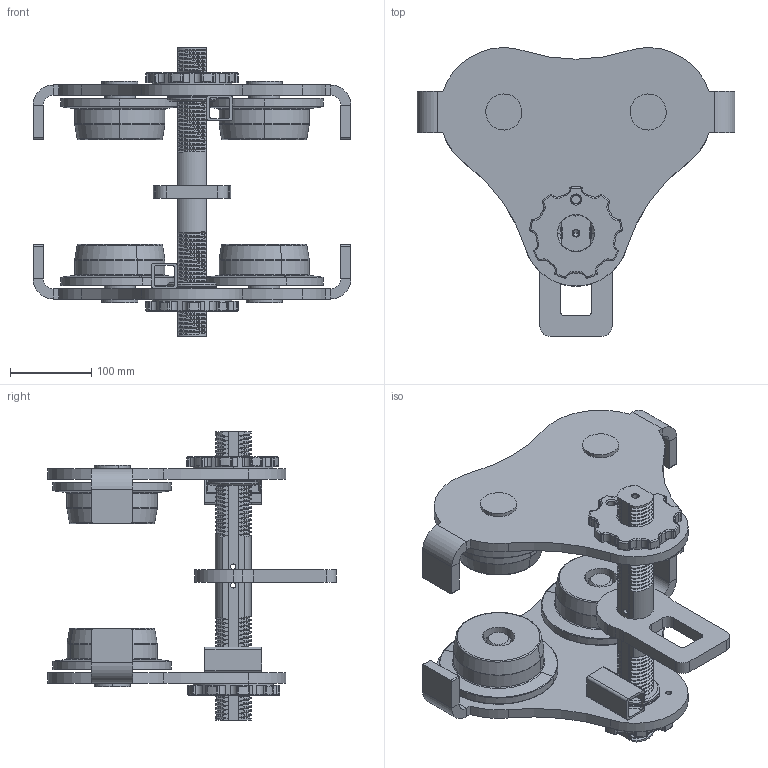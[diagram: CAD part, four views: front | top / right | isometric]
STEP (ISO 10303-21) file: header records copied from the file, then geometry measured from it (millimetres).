
FILE_DESCRIPTION (( 'STEP AP214' ), '1' );
FILE_NAME ('OZ3PBTA.STEP', '2023-03-16T13:31:40', ( '' ), ( '' ), 'SwSTEP 2.0', 'SolidWorks 2021', '' );
FILE_SCHEMA (( 'AUTOMOTIVE_DESIGN' ));
Length unit declared in the file: inch
Products named in the file (8): OT003006; OZ3PBTA; OT003014; OT003008; OT003005; OT003001; OT003007; OT003003 Machined Version
Assembly tree (16 placements, depth 2):
  OZ3PBTA
    OT003005
    OT003008
    OT003007  x2
    OT003006  x4
    OT003014  x2
    OT003001  x4
    OT003003 Machined Version  x2
Bounding box: 391.7 x 355.57 x 355.6 mm (x, y, z)
Volume: 4657978.9 mm3; surface area: 776198.4 mm2
Topology: 16 solids, 16 shells, 1098 faces, 2802 edges, 1752 vertices
Faces by surface type: cylinder 459, bspline 212, plane 195, torus 144, cone 44, sphere 44
Entity records: 267652 total; most frequent: CARTESIAN_POINT 252415, ORIENTED_EDGE 3622, DIRECTION 2506, EDGE_CURVE 1811, VERTEX_POINT 1157, AXIS2_PLACEMENT_3D 964, EDGE_LOOP 720, FACE_OUTER_BOUND 678
